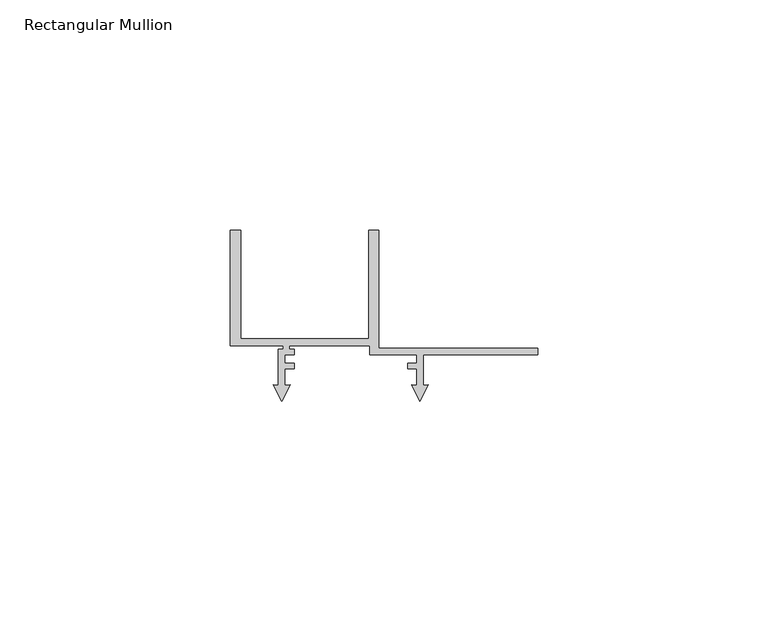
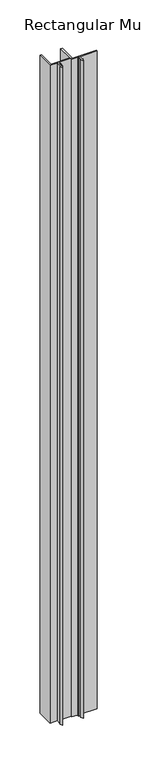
"""IFC4 building model written with IfcOpenShell, lengths in millimetres: member geometry, Rectangular Mullion : Renson_Linarte_LA-E25-01."""

from ifc_helpers import new_model, si_unit, frame, origin, place, context, project, spatial, polyline, outline, extrude, source, transform, mapped, element, save


def rectangular_mullion_e4d93e6c(model_context):
    return source(origin(), model_context, "Body", "SweptSolid", [
        extrude(outline(polyline([(66.6, 36.1000494), (66.6, 34.6000494), (41.8, 34.6000494), (41.8, 28.0071867), (42.9255299, 28.1056578), (41.0999986, 24.5228474), (39.2744672, 28.1056581), (40.3999998, 28.0071867), (40.3999998, 31.599221), (38.4077357, 31.599221), (38.4077357, 32.8000494), (40.3999995, 32.8000494), (40.3999995, 34.6000494), (30.1732051, 34.6000494), (30.1732051, 36.6000494), (12.8, 36.6000494), (12.8, 35.8015754), (13.7880766, 35.8015754), (13.7880766, 34.6000494), (11.8091794, 34.6000494), (11.8091794, 32.8000494), (13.7875618, 32.8000494), (13.7875618, 31.5979618), (11.7999987, 31.5979618), (11.7999987, 28.0038712), (12.9157351, 28.1014855), (11.0999986, 24.537898), (9.284262, 28.1014855), (10.3999985, 28.0038712), (10.3999985, 35.8015754), (11.4, 35.8015754), (11.4, 36.6000494), (0.0, 36.6000494), (0.0, 61.6000494), (2.2, 61.6000494), (2.2, 38.1000494), (30.0, 38.1000494), (30.0, 61.6000494), (32.2, 61.6000494), (32.2, 36.1000494), (66.6, 36.1000494)])), frame((0.0, 0.0, -1000.0), z_axis=(0.0, 0.0, 1.0), x_axis=(1.0, 0.0, 0.0)), (0.0, 0.0, 1.0), 1000.0),
    ])


if __name__ == "__main__":
    model = new_model("IFC4")
    model_context = context("Model", 3, world=origin())
    ifc_project = project(units=[si_unit("LENGTHUNIT", "METRE", prefix="MILLI")], contexts=[model_context])
    site = spatial("IfcSite", under=ifc_project)
    building = spatial("IfcBuilding", under=site)
    placement = place(None, origin())
    rectangular_mullion_shape = rectangular_mullion_e4d93e6c(model_context)
    element("IfcMember", 1, ObjectType="Rectangular Mullion : Renson_Linarte_LA-E25-01", at=placement, inside=building, context=model_context, shape_type="MappedRepresentation", body=[
        mapped(rectangular_mullion_shape, transform((0.0, 0.0, 0.0), x_axis=(1.0, 0.0, 0.0), y_axis=(0.0, 1.0, 0.0), z_axis=(0.0, 0.0, 1.0))),
    ])
    save(model, "model.ifc")
